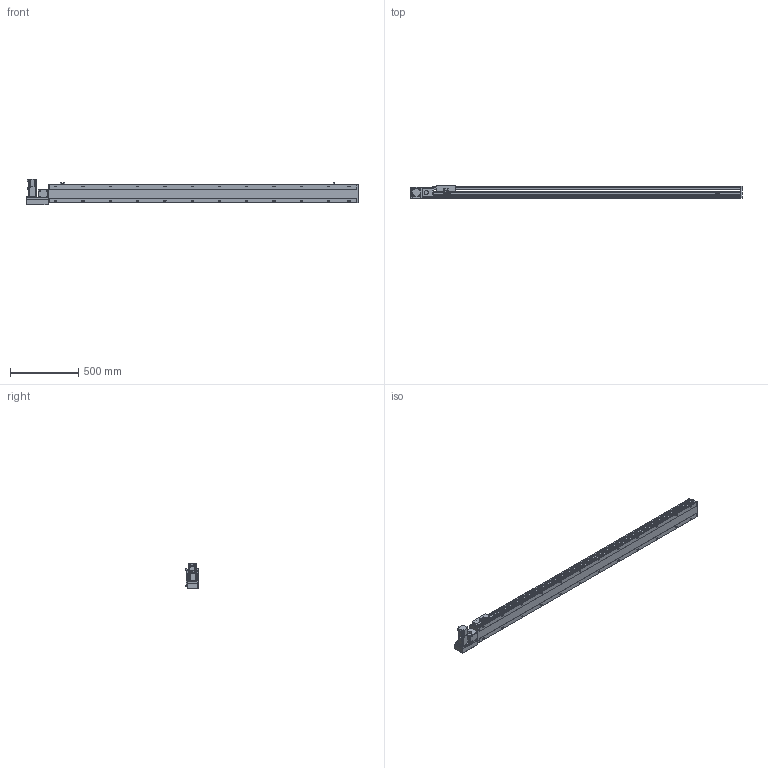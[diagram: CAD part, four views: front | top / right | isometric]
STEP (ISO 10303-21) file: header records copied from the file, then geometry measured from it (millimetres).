
FILE_DESCRIPTION( ( 'STEP AP214' ), '1' );
FILE_NAME( 'x:/temp/worker_6/temp/exporttempdir_5396_24_tEFsp/format_0/PBS140S-P40-S2000-L-T40-C1-N(0).stp', '2022-06-09T00:03:03', ( 'License CC BY-ND 4.0' ), ( 'CADENAS' ), ' ', 'PARTsolutions', ' ' );
FILE_SCHEMA( ( 'AUTOMOTIVE_DESIGN { 1 0 10303 214 1 1 1 1 }' ) );
Length unit declared in the file: millimetre
Products named in the file (7): PBS140S-P40-S2000-L-T40-C1-N(0); _PBS140S-S2000()_body; _PBS140ST-L_motors; _T40-p1; _PBS140S_sliser; _PBS140S_plant; _PBS140S_sensor
Assembly tree (8 placements, depth 2):
  PBS140S-P40-S2000-L-T40-C1-N(0)
    _PBS140S-S2000()_body
    _PBS140ST-L_motors
    _T40-p1
    _PBS140S_sliser
    _PBS140S_plant
    _PBS140S_sensor  x3
Bounding box: 2433 x 93 x 189.7 mm (x, y, z)
Volume: 11593571.5 mm3; surface area: 1964099.5 mm2
Topology: 8 solids, 8 shells, 1163 faces, 3071 edges, 2009 vertices
Faces by surface type: plane 726, cylinder 377, cone 50, sphere 8, torus 2
Full cylindrical faces by diameter (mm): 3.242 x4, 4 x2, 4.134 x4, 4.4 x8, 4.5 x2, 4.8 x4, 4.917 x32, 5.5 x7, 6 x2, 7 x26, 7.5 x8, 8 x12, 8.5 x4, 10.5 x24, 14 x1, 30 x2, 50 x2
Entity records: 42904 total; most frequent: CARTESIAN_POINT 7078, DIRECTION 5628, ORIENTED_EDGE 5302, EDGE_CURVE 2651, AXIS2_PLACEMENT_3D 1979, VERTEX_POINT 1849, LINE 1670, VECTOR 1670
